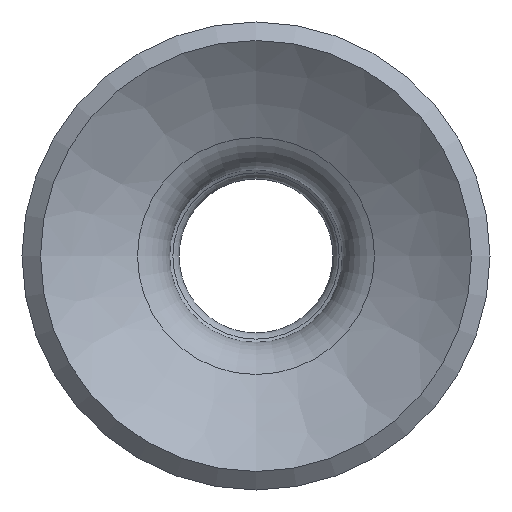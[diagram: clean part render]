
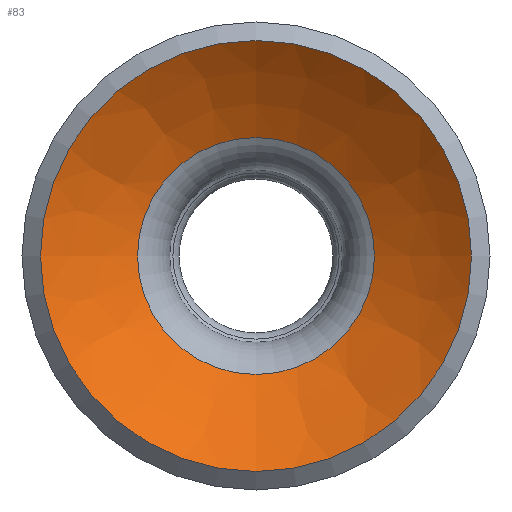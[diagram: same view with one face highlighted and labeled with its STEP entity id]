
A CAD part, front view. The second image highlights one B-rep face of the part: STEP entity #83.
In plain terms, the highlighted free-form (B-spline) face has degree [3, 3] with [4, 7] control points.
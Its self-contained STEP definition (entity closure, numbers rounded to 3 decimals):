
#83 = ADVANCED_FACE( '', ( #121, #122 ), #123, .F. );
#121 = FACE_OUTER_BOUND( '', #186, .T. );
#122 = FACE_OUTER_BOUND( '', #187, .T. );
#123 = ( BOUNDED_SURFACE(  )B_SPLINE_SURFACE( 3, 3, ( ( #190, #191, #192, #193, #194, #195, #196 ), ( #197, #198, #199, #200, #201, #202, #203 ), ( #204, #205, #206, #207, #208, #209, #210 ), ( #211, #212, #213, #214, #215, #216, #217 ) ), .UNSPECIFIED., .F., .T., .F. )B_SPLINE_SURFACE_WITH_KNOTS( ( 4, 4 ), ( 4, 3, 4 ), ( 0., 6.283 ), ( -1.113, -0.996, -0.878 ), .UNSPECIFIED. )GEOMETRIC_REPRESENTATION_ITEM(  )RATIONAL_B_SPLINE_SURFACE( ( ( 1., 0.333, 0.333, 1., 0.333, 0.333, 1. ), ( 0.995, 0.332, 0.332, 0.995, 0.332, 0.332, 0.995 ), ( 0.995, 0.332, 0.332, 0.995, 0.332, 0.332, 0.995 ), ( 1., 0.333, 0.333, 1., 0.333, 0.333, 1. ) ) )REPRESENTATION_ITEM( '' )SURFACE(  ) );
#186 = EDGE_LOOP( '', ( #335 ) );
#187 = EDGE_LOOP( '', ( #336 ) );
#190 = CARTESIAN_POINT( '', ( 0., 0., -7. ) );
#191 = CARTESIAN_POINT( '', ( 14., 0., -7. ) );
#192 = CARTESIAN_POINT( '', ( 14., 0., 7. ) );
#193 = CARTESIAN_POINT( '', ( 0., 0., 7. ) );
#194 = CARTESIAN_POINT( '', ( -14., 0., 7. ) );
#195 = CARTESIAN_POINT( '', ( -14., 0., -7. ) );
#196 = CARTESIAN_POINT( '', ( 0., 0., -7. ) );
#197 = CARTESIAN_POINT( '', ( 0., 0.803, -6.032 ) );
#198 = CARTESIAN_POINT( '', ( 12.065, 0.803, -6.032 ) );
#199 = CARTESIAN_POINT( '', ( 12.065, 0.803, 6.032 ) );
#200 = CARTESIAN_POINT( '', ( 0., 0.803, 6.032 ) );
#201 = CARTESIAN_POINT( '', ( -12.065, 0.803, 6.032 ) );
#202 = CARTESIAN_POINT( '', ( -12.065, 0.803, -6.032 ) );
#203 = CARTESIAN_POINT( '', ( 0., 0.803, -6.032 ) );
#204 = CARTESIAN_POINT( '', ( 0., 1.487, -4.977 ) );
#205 = CARTESIAN_POINT( '', ( 9.954, 1.487, -4.977 ) );
#206 = CARTESIAN_POINT( '', ( 9.954, 1.487, 4.977 ) );
#207 = CARTESIAN_POINT( '', ( 0., 1.487, 4.977 ) );
#208 = CARTESIAN_POINT( '', ( -9.954, 1.487, 4.977 ) );
#209 = CARTESIAN_POINT( '', ( -9.954, 1.487, -4.977 ) );
#210 = CARTESIAN_POINT( '', ( 0., 1.487, -4.977 ) );
#211 = CARTESIAN_POINT( '', ( 0., 2.042, -3.849 ) );
#212 = CARTESIAN_POINT( '', ( 7.698, 2.042, -3.849 ) );
#213 = CARTESIAN_POINT( '', ( 7.698, 2.042, 3.849 ) );
#214 = CARTESIAN_POINT( '', ( 0., 2.042, 3.849 ) );
#215 = CARTESIAN_POINT( '', ( -7.698, 2.042, 3.849 ) );
#216 = CARTESIAN_POINT( '', ( -7.698, 2.042, -3.849 ) );
#217 = CARTESIAN_POINT( '', ( 0., 2.042, -3.849 ) );
#335 = ORIENTED_EDGE( '', *, *, #404, .F. );
#336 = ORIENTED_EDGE( '', *, *, #405, .T. );
#404 = EDGE_CURVE( '', #435, #435, #436, .T. );
#405 = EDGE_CURVE( '', #437, #437, #438, .T. );
#435 = VERTEX_POINT( '', #477 );
#436 = CIRCLE( '', #478, 3.849 );
#437 = VERTEX_POINT( '', #479 );
#438 = CIRCLE( '', #480, 7. );
#477 = CARTESIAN_POINT( '', ( 0., 2.042, -3.849 ) );
#478 = AXIS2_PLACEMENT_3D( '', #527, #528, #529 );
#479 = CARTESIAN_POINT( '', ( 0., 0., -7. ) );
#480 = AXIS2_PLACEMENT_3D( '', #530, #531, #532 );
#527 = CARTESIAN_POINT( '', ( 0., 2.042, 0. ) );
#528 = DIRECTION( '', ( 0., -1., 0. ) );
#529 = DIRECTION( '', ( 0., 0., -1. ) );
#530 = CARTESIAN_POINT( '', ( 0., 0., 0. ) );
#531 = DIRECTION( '', ( 0., -1., 0. ) );
#532 = DIRECTION( '', ( 0., 0., -1. ) );
